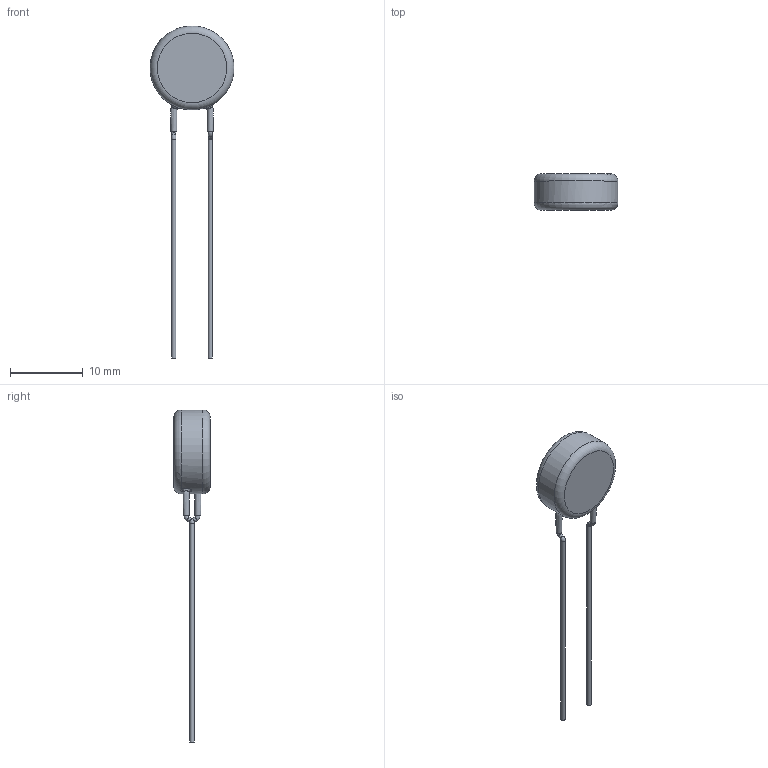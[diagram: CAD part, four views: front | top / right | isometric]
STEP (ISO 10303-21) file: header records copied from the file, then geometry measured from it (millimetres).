
FILE_DESCRIPTION(/* description */ (''),/* implementation_level */ '2;1');
FILE_NAME(/* name */ 'I:\Marketing\M6t1\3D-Models\Zchng-Werk-3\Upload for homepage\BCC\AY2\Inline Dia 0,6 LS 5\AY2392K43Y5US63V5.stp',/* time_stamp */ '2020-11-06T08:59:28+01:00',/* author */ ('truediger'),/* organization */ (''),/* preprocessor_version */ 'ST-DEVELOPER v18',/* originating_system */ 'Autodesk Inventor 2020',/* authorisation */ '');
FILE_SCHEMA (('AUTOMOTIVE_DESIGN { 1 0 10303 214 3 1 1 }'));
Length unit declared in the file: millimetre
Products named in the file (1): Bauteil1
Bounding box: 11.49 x 5 x 45.5 mm (x, y, z)
Volume: 526.1 mm3; surface area: 492.4 mm2
Topology: 1 solids, 1 shells, 29 faces, 81 edges, 56 vertices
Faces by surface type: cylinder 9, bspline 8, torus 6, plane 6
Full cylindrical faces by diameter (mm): 0.6 x4, 11.5 x1
Entity records: 3214 total; most frequent: CARTESIAN_POINT 2433, ORIENTED_EDGE 162, DIRECTION 141, EDGE_CURVE 81, AXIS2_PLACEMENT_3D 68, VERTEX_POINT 56, CIRCLE 44, EDGE_LOOP 31
